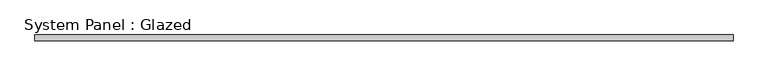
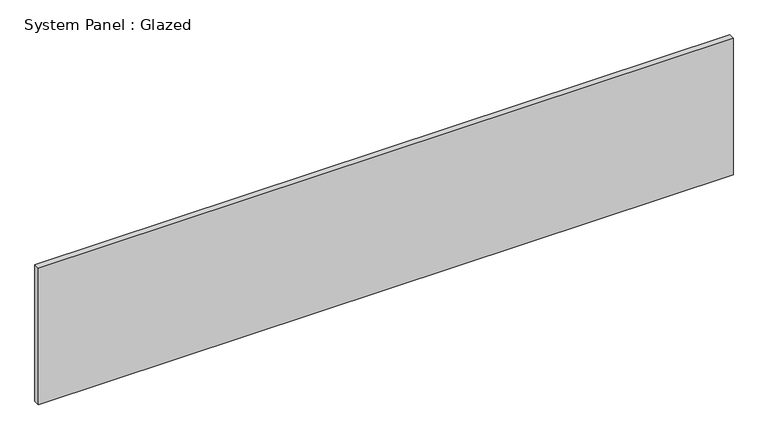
"""IFC4 building model written with IfcOpenShell, lengths in millimetres: plate geometry, System Panel : Glazed."""

import ifcopenshell
import ifcopenshell.guid

model = None  # the IFC model being written
_history = None  # IfcOwnerHistory: only IFC2X3 demands one
_inside = {}  # id of a spatial element -> (the spatial element, [elements in it])
_under = {}  # id of a project, library or spatial element -> (it, [spatial elements below it])
_declared = {}  # id of a project -> (the project, [libraries it declares])
_typed = {}  # id of a type object -> (the type object, [elements of that type])
_made_of = {}  # id of a material, layer set ... -> (it, [elements and type objects made of it])


def new_model(schema):
    """Start an empty IFC model of exactly this schema.

    Asked for "IFC4X3", IfcOpenShell would pick the latest addendum, in which some entities
    have other attributes; the version numbers below select the first issue.
    IFC2X3 requires an IfcOwnerHistory on every rooted entity: one is made here for all.
    """
    global model, _history
    if schema == "IFC4X3":
        model = ifcopenshell.file(schema_version=(4, 3, 0, 0))
    else:
        model = ifcopenshell.file(schema=schema)
    _inside.clear()
    _under.clear()
    _declared.clear()
    _typed.clear()
    _made_of.clear()
    _history = None
    if model.schema == "IFC2X3":
        org = make("IfcOrganization", Name="unknown")
        user = make(
            "IfcPersonAndOrganization",
            ThePerson=make("IfcPerson", FamilyName="unknown"),
            TheOrganization=org,
        )
        app = make(
            "IfcApplication",
            ApplicationDeveloper=org,
            Version="unknown",
            ApplicationFullName="unknown",
            ApplicationIdentifier="unknown",
        )
        _history = make(
            "IfcOwnerHistory",
            OwningUser=user,
            OwningApplication=app,
            ChangeAction="ADDED",
            CreationDate=0,
        )
    return model


def make(cls, **values):
    """One entity of the class cls with the attributes given. An attribute that is None is left unset."""
    return model.create_entity(
        cls, **{name: value for name, value in values.items() if value is not None}
    )


def rooted(cls, **values):
    """An entity with a GlobalId (a new one), such as an element, a storey or a relation."""
    return make(cls, GlobalId=ifcopenshell.guid.new(), OwnerHistory=_history, **values)


def si_unit(unit_type, name, prefix=None):
    """IfcSIUnit, for example si_unit("LENGTHUNIT", "METRE", prefix="MILLI")."""
    return make("IfcSIUnit", UnitType=unit_type, Prefix=prefix, Name=name)


def assignment(units):
    """IfcUnitAssignment: the units of a project."""
    return None if units is None else make("IfcUnitAssignment", Units=units)


def point(xyz):
    """IfcCartesianPoint."""
    return None if xyz is None else make("IfcCartesianPoint", Coordinates=xyz)


def direction(xyz):
    """IfcDirection."""
    return None if xyz is None else make("IfcDirection", DirectionRatios=xyz)


def frame(location, z_axis=None, x_axis=None):
    """IfcAxis2Placement3D, a coordinate frame: its origin and axes. An axis left out is left unset."""
    return make(
        "IfcAxis2Placement3D",
        Location=point(location),
        Axis=direction(z_axis),
        RefDirection=direction(x_axis),
    )


def origin():
    """The frame at (0, 0, 0) with its axes left unset."""
    return frame((0.0, 0.0, 0.0))


def origin_with_axes():
    """The frame at (0, 0, 0) with the z axis (0, 0, 1) and the x axis (1, 0, 0) written out."""
    return frame((0.0, 0.0, 0.0), z_axis=(0.0, 0.0, 1.0), x_axis=(1.0, 0.0, 0.0))


def place(relative_to, where):
    """IfcLocalPlacement: puts the frame where relative to a parent placement (None: the world)."""
    return make(
        "IfcLocalPlacement", PlacementRelTo=relative_to, RelativePlacement=where
    )


def context(
    kind, dimensions, precision=None, world=None, true_north=None, identifier=None
):
    """IfcGeometricRepresentationContext, for example the 3D "Model" context."""
    return make(
        "IfcGeometricRepresentationContext",
        ContextIdentifier=identifier,
        ContextType=kind,
        CoordinateSpaceDimension=dimensions,
        Precision=precision,
        WorldCoordinateSystem=world,
        TrueNorth=true_north,
    )


def project(units=None, contexts=None):
    """IfcProject with its units and contexts."""
    return rooted(
        "IfcProject",
        Name="project",
        RepresentationContexts=contexts,
        UnitsInContext=assignment(units),
    )


def spatial(cls, under=None, at=None, **own):
    """A site, building, storey or space (cls), placed at a placement, below another one or the project."""
    s = rooted(cls, ObjectPlacement=at, **own)
    if under is not None:
        _under.setdefault(under.id(), (under, []))[1].append(s)
    return s


def polyline(points):
    """IfcPolyline through the points."""
    return make("IfcPolyline", Points=[point(p) for p in points])


def outline(outer, holes=None, kind="AREA"):
    """IfcArbitraryClosedProfileDef: a profile drawn as a closed curve; with holes, ...WithVoids."""
    if holes is None:
        return make("IfcArbitraryClosedProfileDef", ProfileType=kind, OuterCurve=outer)
    return make(
        "IfcArbitraryProfileDefWithVoids",
        ProfileType=kind,
        OuterCurve=outer,
        InnerCurves=holes,
    )


def extrude(swept, where, along, depth):
    """IfcExtrudedAreaSolid: the profile swept, set in the frame where, extruded along a direction by depth."""
    return make(
        "IfcExtrudedAreaSolid",
        SweptArea=swept,
        Position=where,
        ExtrudedDirection=direction(along),
        Depth=depth,
    )


def shape(context_of_items, identifier, shape_type, items):
    """IfcShapeRepresentation: the items that make up one representation, for example the "Body"."""
    return make(
        "IfcShapeRepresentation",
        ContextOfItems=context_of_items,
        RepresentationIdentifier=identifier,
        RepresentationType=shape_type,
        Items=items,
    )


def source(mapping_origin, context_of_items, identifier, shape_type, items):
    """IfcRepresentationMap: a shape defined once, which mapped items show again and again."""
    return make(
        "IfcRepresentationMap",
        MappingOrigin=mapping_origin,
        MappedRepresentation=shape(context_of_items, identifier, shape_type, items),
    )


def transform(
    local_origin,
    x_axis=None,
    y_axis=None,
    z_axis=None,
    scale=None,
    scale2=None,
    scale3=None,
    uniform=True,
):
    """IfcCartesianTransformationOperator3D, or its non-uniform kind. x_axis, y_axis, z_axis: its Axis1, 2, 3."""
    if uniform:
        return make(
            "IfcCartesianTransformationOperator3D",
            Axis1=direction(x_axis),
            Axis2=direction(y_axis),
            LocalOrigin=point(local_origin),
            Scale=scale,
            Axis3=direction(z_axis),
        )
    return make(
        "IfcCartesianTransformationOperator3DnonUniform",
        Axis1=direction(x_axis),
        Axis2=direction(y_axis),
        LocalOrigin=point(local_origin),
        Scale=scale,
        Axis3=direction(z_axis),
        Scale2=scale2,
        Scale3=scale3,
    )


def mapped(mapping_source, mapping_target):
    """IfcMappedItem: shows the shape of a source again, moved by a transform."""
    return make(
        "IfcMappedItem", MappingSource=mapping_source, MappingTarget=mapping_target
    )


def made_of(thing, what):
    """Note that an element or type object is made of a material, layer set ...; save() writes the relation."""
    if what is not None:
        _made_of.setdefault(what.id(), (what, []))[1].append(thing)
    return thing


def element(
    cls,
    number,
    at=None,
    inside=None,
    cuts=None,
    type_object=None,
    material=None,
    context=None,
    identifier="Body",
    shape_type=None,
    held_by="IfcProductDefinitionShape",
    body=None,
    shapes=None,
    **own,
):
    """One element of the class cls, such as IfcWall. Its Tag is "e" and its number.

    at: its placement. inside: the storey or other place that contains it. cuts: it is an
    opening in that element (IfcRelVoidsElement). A single representation is given by context,
    identifier, shape_type and body (its items); several are given by shapes. held_by: the class
    of the entity that holds the representations. save() writes the other relations.
    """
    e = rooted(cls, Tag="e%d" % number, ObjectPlacement=at, **own)
    if body is not None:
        shapes = [shape(context, identifier, shape_type, body)]
    if shapes is not None:
        e.Representation = make(held_by, Representations=shapes)
    if inside is not None:
        _inside.setdefault(inside.id(), (inside, []))[1].append(e)
    if cuts is not None:
        rooted(
            "IfcRelVoidsElement", RelatingBuildingElement=cuts, RelatedOpeningElement=e
        )
    if type_object is not None:
        _typed.setdefault(type_object.id(), (type_object, []))[1].append(e)
    return made_of(e, material)


def aggregate(whole, parts):
    """IfcRelAggregates: a whole, such as a stair, and the parts it consists of."""
    return rooted("IfcRelAggregates", RelatingObject=whole, RelatedObjects=parts)


def save(model, path):
    """Write the relations noted so far, then the file.

    IfcRelAggregates (storeys below a building ...), IfcRelContainedInSpatialStructure (elements
    in a storey), IfcRelDefinesByType, IfcRelAssociatesMaterial and IfcRelDeclares: one each for
    every whole, place, type object, material and project.
    """
    for whole, parts in _under.values():
        aggregate(whole, parts)
    for where, things in _inside.values():
        rooted(
            "IfcRelContainedInSpatialStructure",
            RelatedElements=things,
            RelatingStructure=where,
        )
    for kind, things in _typed.values():
        rooted("IfcRelDefinesByType", RelatedObjects=things, RelatingType=kind)
    for what, things in _made_of.values():
        rooted("IfcRelAssociatesMaterial", RelatedObjects=things, RelatingMaterial=what)
    for by, libraries in _declared.values():
        rooted("IfcRelDeclares", RelatingContext=by, RelatedDefinitions=libraries)
    model.write(path)


def system_panel_glazed_9e59c210(model_context):
    return source(origin(), model_context, "Body", "SweptSolid", [
        extrude(outline(polyline([(1447.5, 24.5), (-1447.5, 24.5), (-1447.5, 49.5), (1447.5, 49.5), (1447.5, 24.5)])), origin_with_axes(), (0.0, 0.0, 1.0), 600.0),
    ])


if __name__ == "__main__":
    model = new_model("IFC4")
    model_context = context("Model", 3, world=origin())
    ifc_project = project(units=[si_unit("LENGTHUNIT", "METRE", prefix="MILLI")], contexts=[model_context])
    site = spatial("IfcSite", under=ifc_project)
    building = spatial("IfcBuilding", under=site)
    placement = place(None, origin())
    system_panel_glazed_shape = system_panel_glazed_9e59c210(model_context)
    element("IfcPlate", 1, ObjectType="System Panel : Glazed", at=placement, inside=building, context=model_context, shape_type="MappedRepresentation", body=[
        mapped(system_panel_glazed_shape, transform((0.0, 0.0, 0.0), x_axis=(1.0, 0.0, 0.0), y_axis=(0.0, 1.0, 0.0), z_axis=(0.0, 0.0, 1.0))),
    ])
    save(model, "model.ifc")
